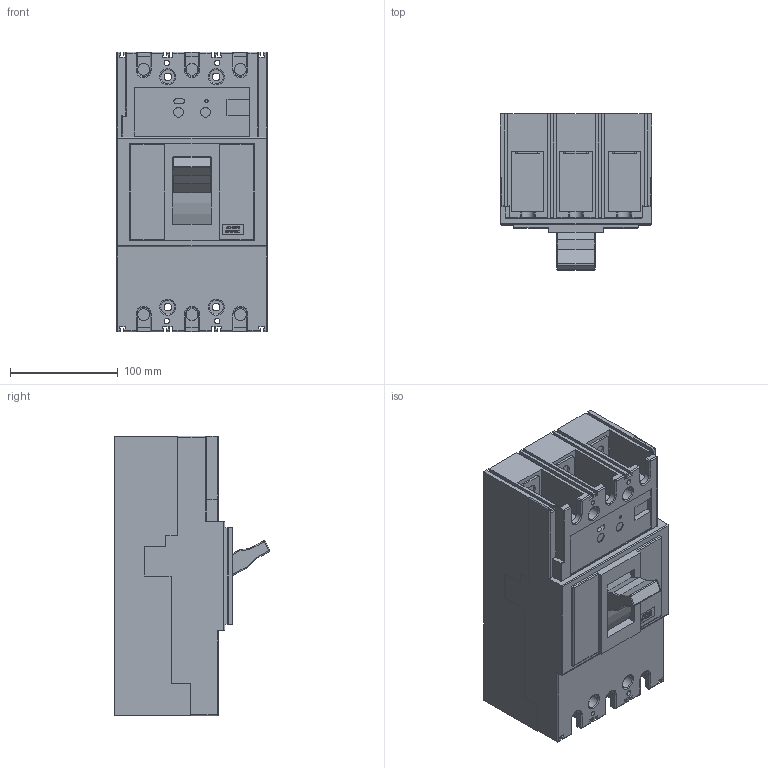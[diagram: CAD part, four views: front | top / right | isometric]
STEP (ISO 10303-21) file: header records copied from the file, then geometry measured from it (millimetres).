
FILE_DESCRIPTION((''),'2;1');
FILE_NAME('E400NJ3400','2012-09-20T',('cmahecha'),(''),'PRO/ENGINEER BY PARAMETRIC TECHNOLOGY CORPORATION, 2010280','PRO/ENGINEER BY PARAMETRIC TECHNOLOGY CORPORATION, 2010280','');
FILE_SCHEMA(('CONFIG_CONTROL_DESIGN'));
Length unit declared in the file: millimetre
Products named in the file (1): E400NJ3400
Bounding box: 140.4 x 144.93 x 260 mm (x, y, z)
Volume: 3304849.8 mm3; surface area: 221189 mm2
Topology: 1 solids, 1 shells, 717 faces, 1940 edges, 1264 vertices
Faces by surface type: plane 547, cylinder 142, sphere 14, torus 14
Entity records: 22380 total; most frequent: CARTESIAN_POINT 4111, ORIENTED_EDGE 3880, DIRECTION 3594, EDGE_CURVE 1940, VECTOR 1660, LINE 1660, VERTEX_POINT 1264, AXIS2_PLACEMENT_3D 967
